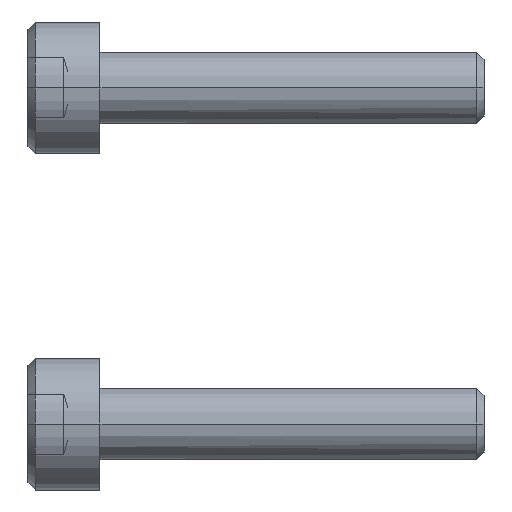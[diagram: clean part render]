
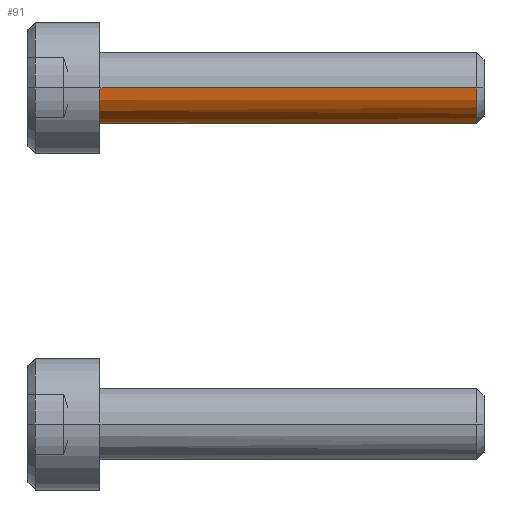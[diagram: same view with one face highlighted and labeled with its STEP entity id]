
A CAD part, front view. The second image highlights one B-rep face of the part: STEP entity #91.
In plain terms, the highlighted free-form (B-spline) face has degree [1, 2] with [2, 9] control points.
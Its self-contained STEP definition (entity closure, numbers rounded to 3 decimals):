
#91=ADVANCED_FACE('',(#166),#2233,.T.);
#166=FACE_OUTER_BOUND('',#243,.T.);
#243=EDGE_LOOP('',(#411,#412,#413,#414));
#411=ORIENTED_EDGE('',*,*,#1868,.T.);
#412=ORIENTED_EDGE('',*,*,#1869,.T.);
#413=ORIENTED_EDGE('',*,*,#1870,.T.);
#414=ORIENTED_EDGE('',*,*,#1871,.T.);
#735=PCURVE('',#2233,#1059);
#736=PCURVE('',#2233,#1060);
#737=PCURVE('',#2233,#1061);
#738=PCURVE('',#2233,#1062);
#739=PCURVE('',#2234,#1063);
#812=PCURVE('',#2238,#1136);
#814=PCURVE('',#2238,#1138);
#817=PCURVE('',#2204,#1141);
#1059=DEFINITIONAL_REPRESENTATION('',(#1405),#4285);
#1060=DEFINITIONAL_REPRESENTATION('',(#1407),#4285);
#1061=DEFINITIONAL_REPRESENTATION('',(#1408),#4285);
#1062=DEFINITIONAL_REPRESENTATION('',(#1410),#4285);
#1063=DEFINITIONAL_REPRESENTATION('',(#1411),#4285);
#1136=DEFINITIONAL_REPRESENTATION('',(#1502),#4285);
#1138=DEFINITIONAL_REPRESENTATION('',(#1504),#4285);
#1141=DEFINITIONAL_REPRESENTATION('',(#2035),#4285);
#1405=B_SPLINE_CURVE_WITH_KNOTS('',1,(#3301,#3302),.UNSPECIFIED.,.F.,.F.,
(2,2),(0.,4.712),.UNSPECIFIED.);
#1406=B_SPLINE_CURVE_WITH_KNOTS('',1,(#3303,#3304),.UNSPECIFIED.,.F.,.F.,
(2,2),(0.,15.694),.UNSPECIFIED.);
#1407=B_SPLINE_CURVE_WITH_KNOTS('',1,(#3305,#3306),.UNSPECIFIED.,.F.,.F.,
(2,2),(0.,15.694),.UNSPECIFIED.);
#1408=B_SPLINE_CURVE_WITH_KNOTS('',1,(#3312,#3313),.UNSPECIFIED.,.F.,.F.,
(2,2),(-4.712,0.),.UNSPECIFIED.);
#1409=B_SPLINE_CURVE_WITH_KNOTS('',1,(#3314,#3315),.UNSPECIFIED.,.F.,.F.,
(2,2),(0.,15.694),.UNSPECIFIED.);
#1410=B_SPLINE_CURVE_WITH_KNOTS('',1,(#3316,#3317),.UNSPECIFIED.,.F.,.F.,
(2,2),(0.,15.694),.UNSPECIFIED.);
#1411=B_SPLINE_CURVE_WITH_KNOTS('',1,(#3318,#3319),.UNSPECIFIED.,.F.,.F.,
(2,2),(-4.712,0.),.UNSPECIFIED.);
#1502=B_SPLINE_CURVE_WITH_KNOTS('',1,(#3573,#3574),.UNSPECIFIED.,.F.,.F.,
(2,2),(0.,15.694),.UNSPECIFIED.);
#1504=B_SPLINE_CURVE_WITH_KNOTS('',1,(#3582,#3583),.UNSPECIFIED.,.F.,.F.,
(2,2),(0.,15.694),.UNSPECIFIED.);
#1706=SURFACE_CURVE('',#2008,(#735,#817),.PCURVE_S1.);
#1707=SURFACE_CURVE('',#1406,(#736,#812),.PCURVE_S1.);
#1708=SURFACE_CURVE('',#2009,(#737,#739),.PCURVE_S1.);
#1709=SURFACE_CURVE('',#1409,(#738,#814),.PCURVE_S1.);
#1868=EDGE_CURVE('',#2116,#2119,#1706,.T.);
#1869=EDGE_CURVE('',#2119,#2118,#1707,.T.);
#1870=EDGE_CURVE('',#2118,#2117,#1708,.T.);
#1871=EDGE_CURVE('',#2117,#2116,#1709,.T.);
#2008=(
BOUNDED_CURVE()
B_SPLINE_CURVE(2,(#3296,#3297,#3298,#3299,#3300),.UNSPECIFIED.,.F.,.F.)
B_SPLINE_CURVE_WITH_KNOTS((3,2,3),(0.,2.356,4.712),
 .UNSPECIFIED.)
CURVE()
GEOMETRIC_REPRESENTATION_ITEM()
RATIONAL_B_SPLINE_CURVE((1.,0.707,1.,0.707,1.))
REPRESENTATION_ITEM('')
);
#2009=(
BOUNDED_CURVE()
B_SPLINE_CURVE(2,(#3307,#3308,#3309,#3310,#3311),.UNSPECIFIED.,.F.,.F.)
B_SPLINE_CURVE_WITH_KNOTS((3,2,3),(-4.712,-2.356,0.),
 .UNSPECIFIED.)
CURVE()
GEOMETRIC_REPRESENTATION_ITEM()
RATIONAL_B_SPLINE_CURVE((1.,0.707,1.,0.707,1.))
REPRESENTATION_ITEM('')
);
#2035=(
BOUNDED_CURVE()
B_SPLINE_CURVE(2,(#3599,#3600,#3601,#3602,#3603),.UNSPECIFIED.,.F.,.F.)
B_SPLINE_CURVE_WITH_KNOTS((3,2,3),(0.,2.356,4.712),
 .UNSPECIFIED.)
CURVE()
GEOMETRIC_REPRESENTATION_ITEM()
RATIONAL_B_SPLINE_CURVE((1.,0.707,1.,0.707,1.))
REPRESENTATION_ITEM('')
);
#2116=VERTEX_POINT('',#3230);
#2117=VERTEX_POINT('',#3231);
#2118=VERTEX_POINT('',#3232);
#2119=VERTEX_POINT('',#3233);
#2204=PLANE('',#2324);
#2233=(
BOUNDED_SURFACE()
B_SPLINE_SURFACE(1,2,((#3065,#3066,#3067,#3068,#3069,#3070,#3071,#3072,#3073),
(#3074,#3075,#3076,#3077,#3078,#3079,#3080,#3081,#3082)),.UNSPECIFIED.,.F.,
 .F.,.F.)
B_SPLINE_SURFACE_WITH_KNOTS((2,2),(3,2,2,2,3),(0.,18.835),(0.,1.571,
3.142,4.712,6.283),.UNSPECIFIED.)
GEOMETRIC_REPRESENTATION_ITEM()
RATIONAL_B_SPLINE_SURFACE(((1.,0.707,1.,0.707,1.,
0.707,1.,0.707,1.),(1.,0.707,1.,0.707,
1.,0.707,1.,0.707,1.)))
REPRESENTATION_ITEM('')
SURFACE()
);
#2234=(
BOUNDED_SURFACE()
B_SPLINE_SURFACE(1,2,((#3083,#3084,#3085,#3086,#3087,#3088,#3089,#3090,#3091),
(#3092,#3093,#3094,#3095,#3096,#3097,#3098,#3099,#3100)),.UNSPECIFIED.,.F.,
 .F.,.F.)
B_SPLINE_SURFACE_WITH_KNOTS((2,2),(3,2,2,2,3),(0.,2.335),(0.,
1.571,3.142,4.712,6.283),
 .UNSPECIFIED.)
GEOMETRIC_REPRESENTATION_ITEM()
RATIONAL_B_SPLINE_SURFACE(((1.,0.707,1.,0.707,1.,
0.707,1.,0.707,1.),(1.,0.707,1.,0.707,
1.,0.707,1.,0.707,1.)))
REPRESENTATION_ITEM('')
SURFACE()
);
#2238=(
BOUNDED_SURFACE()
B_SPLINE_SURFACE(1,2,((#3168,#3169,#3170,#3171,#3172,#3173,#3174,#3175,#3176),
(#3177,#3178,#3179,#3180,#3181,#3182,#3183,#3184,#3185)),.UNSPECIFIED.,.F.,
 .F.,.F.)
B_SPLINE_SURFACE_WITH_KNOTS((2,2),(3,2,2,2,3),(0.,18.835),(0.,1.571,
3.142,4.712,6.283),.UNSPECIFIED.)
GEOMETRIC_REPRESENTATION_ITEM()
RATIONAL_B_SPLINE_SURFACE(((1.,0.707,1.,0.707,1.,
0.707,1.,0.707,1.),(1.,0.707,1.,0.707,
1.,0.707,1.,0.707,1.)))
REPRESENTATION_ITEM('')
SURFACE()
);
#2324=AXIS2_PLACEMENT_3D('',#3186,#2379,$);
#2379=DIRECTION('',(-1.,0.,0.));
#3065=CARTESIAN_POINT('',(739.829,-479.07,9.5));
#3066=CARTESIAN_POINT('',(739.829,-480.57,9.5));
#3067=CARTESIAN_POINT('',(739.829,-480.57,8.));
#3068=CARTESIAN_POINT('',(739.829,-480.57,6.5));
#3069=CARTESIAN_POINT('',(739.829,-479.07,6.5));
#3070=CARTESIAN_POINT('',(739.829,-477.57,6.5));
#3071=CARTESIAN_POINT('',(739.829,-477.57,8.));
#3072=CARTESIAN_POINT('',(739.829,-477.57,9.5));
#3073=CARTESIAN_POINT('',(739.829,-479.07,9.5));
#3074=CARTESIAN_POINT('',(758.664,-479.07,9.5));
#3075=CARTESIAN_POINT('',(758.664,-480.57,9.5));
#3076=CARTESIAN_POINT('',(758.664,-480.57,8.));
#3077=CARTESIAN_POINT('',(758.664,-480.57,6.5));
#3078=CARTESIAN_POINT('',(758.664,-479.07,6.5));
#3079=CARTESIAN_POINT('',(758.664,-477.57,6.5));
#3080=CARTESIAN_POINT('',(758.664,-477.57,8.));
#3081=CARTESIAN_POINT('',(758.664,-477.57,9.5));
#3082=CARTESIAN_POINT('',(758.664,-479.07,9.5));
#3083=CARTESIAN_POINT('',(758.594,-479.07,8.));
#3084=CARTESIAN_POINT('',(758.594,-479.07,8.));
#3085=CARTESIAN_POINT('',(758.594,-479.07,8.));
#3086=CARTESIAN_POINT('',(758.594,-479.07,8.));
#3087=CARTESIAN_POINT('',(758.594,-479.07,8.));
#3088=CARTESIAN_POINT('',(758.594,-479.07,8.));
#3089=CARTESIAN_POINT('',(758.594,-479.07,8.));
#3090=CARTESIAN_POINT('',(758.594,-479.07,8.));
#3091=CARTESIAN_POINT('',(758.594,-479.07,8.));
#3092=CARTESIAN_POINT('',(756.942,-479.07,9.651));
#3093=CARTESIAN_POINT('',(756.942,-477.419,9.651));
#3094=CARTESIAN_POINT('',(756.942,-477.419,8.));
#3095=CARTESIAN_POINT('',(756.942,-477.419,6.349));
#3096=CARTESIAN_POINT('',(756.942,-479.07,6.349));
#3097=CARTESIAN_POINT('',(756.942,-480.721,6.349));
#3098=CARTESIAN_POINT('',(756.942,-480.721,8.));
#3099=CARTESIAN_POINT('',(756.942,-480.721,9.651));
#3100=CARTESIAN_POINT('',(756.942,-479.07,9.651));
#3168=CARTESIAN_POINT('',(739.829,-479.07,6.5));
#3169=CARTESIAN_POINT('',(739.829,-477.57,6.5));
#3170=CARTESIAN_POINT('',(739.829,-477.57,8.));
#3171=CARTESIAN_POINT('',(739.829,-477.57,9.5));
#3172=CARTESIAN_POINT('',(739.829,-479.07,9.5));
#3173=CARTESIAN_POINT('',(739.829,-480.57,9.5));
#3174=CARTESIAN_POINT('',(739.829,-480.57,8.));
#3175=CARTESIAN_POINT('',(739.829,-480.57,6.5));
#3176=CARTESIAN_POINT('',(739.829,-479.07,6.5));
#3177=CARTESIAN_POINT('',(758.664,-479.07,6.5));
#3178=CARTESIAN_POINT('',(758.664,-477.57,6.5));
#3179=CARTESIAN_POINT('',(758.664,-477.57,8.));
#3180=CARTESIAN_POINT('',(758.664,-477.57,9.5));
#3181=CARTESIAN_POINT('',(758.664,-479.07,9.5));
#3182=CARTESIAN_POINT('',(758.664,-480.57,9.5));
#3183=CARTESIAN_POINT('',(758.664,-480.57,8.));
#3184=CARTESIAN_POINT('',(758.664,-480.57,6.5));
#3185=CARTESIAN_POINT('',(758.664,-479.07,6.5));
#3186=CARTESIAN_POINT('',(741.4,-475.769,11.301));
#3230=CARTESIAN_POINT('',(741.4,-477.57,8.));
#3231=CARTESIAN_POINT('',(757.094,-477.57,8.));
#3232=CARTESIAN_POINT('',(757.094,-480.57,8.));
#3233=CARTESIAN_POINT('',(741.4,-480.57,8.));
#3296=CARTESIAN_POINT('',(741.4,-477.57,8.));
#3297=CARTESIAN_POINT('',(741.4,-477.57,6.5));
#3298=CARTESIAN_POINT('',(741.4,-479.07,6.5));
#3299=CARTESIAN_POINT('',(741.4,-480.57,6.5));
#3300=CARTESIAN_POINT('',(741.4,-480.57,8.));
#3301=CARTESIAN_POINT('',(1.571,4.712));
#3302=CARTESIAN_POINT('',(1.571,1.571));
#3303=CARTESIAN_POINT('',(741.4,-480.57,8.));
#3304=CARTESIAN_POINT('',(757.094,-480.57,8.));
#3305=CARTESIAN_POINT('',(1.571,1.571));
#3306=CARTESIAN_POINT('',(17.264,1.571));
#3307=CARTESIAN_POINT('',(757.094,-480.57,8.));
#3308=CARTESIAN_POINT('',(757.094,-480.57,6.5));
#3309=CARTESIAN_POINT('',(757.094,-479.07,6.5));
#3310=CARTESIAN_POINT('',(757.094,-477.57,6.5));
#3311=CARTESIAN_POINT('',(757.094,-477.57,8.));
#3312=CARTESIAN_POINT('',(17.264,1.571));
#3313=CARTESIAN_POINT('',(17.264,4.712));
#3314=CARTESIAN_POINT('',(757.094,-477.57,8.));
#3315=CARTESIAN_POINT('',(741.4,-477.57,8.));
#3316=CARTESIAN_POINT('',(17.264,4.712));
#3317=CARTESIAN_POINT('',(1.571,4.712));
#3318=CARTESIAN_POINT('',(2.121,4.712));
#3319=CARTESIAN_POINT('',(2.121,1.571));
#3573=CARTESIAN_POINT('',(1.571,4.712));
#3574=CARTESIAN_POINT('',(17.264,4.712));
#3582=CARTESIAN_POINT('',(17.264,1.571));
#3583=CARTESIAN_POINT('',(1.571,1.571));
#3599=CARTESIAN_POINT('',(0.,0.625));
#3600=CARTESIAN_POINT('',(1.5,0.625));
#3601=CARTESIAN_POINT('',(1.5,2.125));
#3602=CARTESIAN_POINT('',(1.5,3.625));
#3603=CARTESIAN_POINT('',(0.,3.625));
#4285=(
GEOMETRIC_REPRESENTATION_CONTEXT(2)
PARAMETRIC_REPRESENTATION_CONTEXT()
REPRESENTATION_CONTEXT('pspace','')
);
